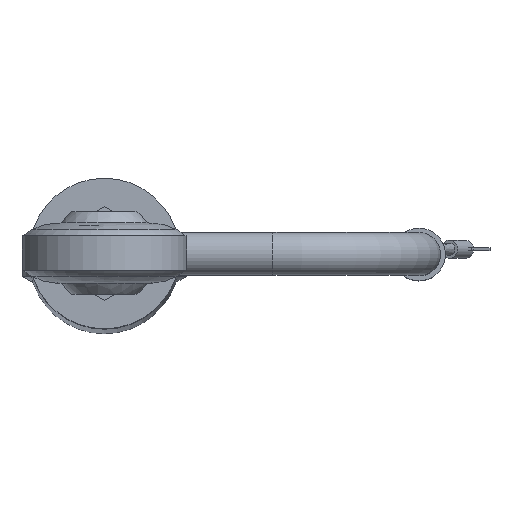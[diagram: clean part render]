
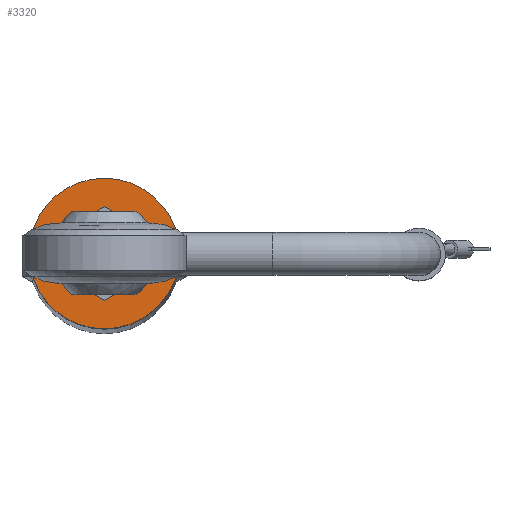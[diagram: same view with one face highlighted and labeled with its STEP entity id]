
A CAD part, top view. The second image highlights one B-rep face of the part: STEP entity #3320.
In plain terms, the highlighted planar face has unit normal (0, 0, 1).
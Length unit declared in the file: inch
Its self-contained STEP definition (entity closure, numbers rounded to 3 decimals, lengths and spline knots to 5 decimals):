
#63=FACE_BOUND('',#944,.T.);
#100=PLANE('',#3701);
#735=FACE_OUTER_BOUND('',#943,.T.);
#943=EDGE_LOOP('',(#2435));
#944=EDGE_LOOP('',(#2436));
#1112=CIRCLE('',#3650,0.12);
#1135=CIRCLE('',#3702,0.25);
#1424=VERTEX_POINT('',#5977);
#1458=VERTEX_POINT('',#8092);
#1752=EDGE_CURVE('',#1424,#1424,#1112,.T.);
#1818=EDGE_CURVE('',#1458,#1458,#1135,.T.);
#2435=ORIENTED_EDGE('',*,*,#1818,.T.);
#2436=ORIENTED_EDGE('',*,*,#1752,.F.);
#3320=ADVANCED_FACE('',(#735,#63),#100,.T.);
#3650=AXIS2_PLACEMENT_3D('',#5979,#4059,#4060);
#3701=AXIS2_PLACEMENT_3D('',#8091,#4191,#4192);
#3702=AXIS2_PLACEMENT_3D('',#8093,#4193,#4194);
#4059=DIRECTION('center_axis',(0.,0.,
1.));
#4060=DIRECTION('ref_axis',(1.,0.,0.));
#4191=DIRECTION('center_axis',(0.,0.,1.));
#4192=DIRECTION('ref_axis',(1.,0.,0.));
#4193=DIRECTION('center_axis',(0.,0.,1.));
#4194=DIRECTION('ref_axis',(1.,0.,0.));
#5977=CARTESIAN_POINT('',(0.12,0.,0.));
#5979=CARTESIAN_POINT('Origin',(0.,0.,
0.));
#8091=CARTESIAN_POINT('Origin',(0.,0.,0.));
#8092=CARTESIAN_POINT('',(-0.25,0.,0.));
#8093=CARTESIAN_POINT('Origin',(0.,0.,0.));
